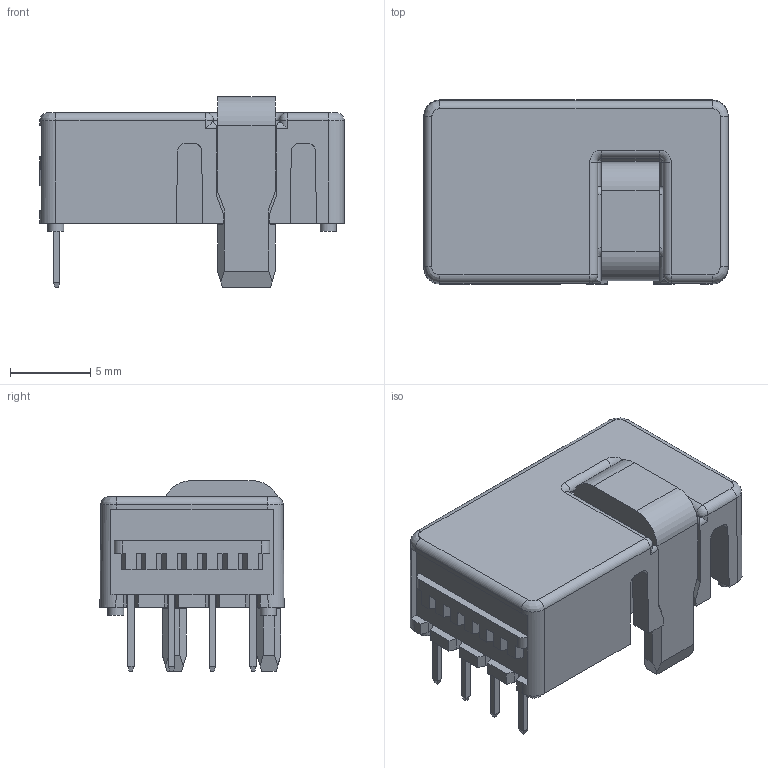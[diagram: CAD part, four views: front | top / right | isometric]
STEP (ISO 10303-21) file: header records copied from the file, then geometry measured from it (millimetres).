
FILE_DESCRIPTION(/* description */ (''),/* implementation_level */ '2;1');
FILE_NAME(/* name */ 'STK-HD-K 20210813.stp',/* time_stamp */ '2021-08-13T16:13:21+08:00',/* author */ (''),/* organization */ (''),/* preprocessor_version */ 'ST-DEVELOPER v15',/* originating_system */ 'SIEMENS PLM Software NX 8.5',/* authorisation */ '');
FILE_SCHEMA (('AUTOMOTIVE_DESIGN { 1 0 10303 214 3 1 1 1 }'));
Length unit declared in the file: millimetre
Products named in the file (1): LeiX16C808A6m5te
Bounding box: 19 x 11.5 x 11.9 mm (x, y, z)
Volume: 1415.7 mm3; surface area: 1319.7 mm2
Topology: 1 solids, 1 shells, 306 faces, 776 edges, 480 vertices
Faces by surface type: plane 224, cylinder 60, torus 12, bspline 4, cone 4, sphere 2
Full cylindrical faces by diameter (mm): 1 x4
Entity records: 9786 total; most frequent: CARTESIAN_POINT 1637, ORIENTED_EDGE 1540, DIRECTION 1517, EDGE_CURVE 770, LINE 617, VECTOR 617, VERTEX_POINT 480, AXIS2_PLACEMENT_3D 450
